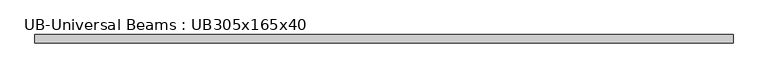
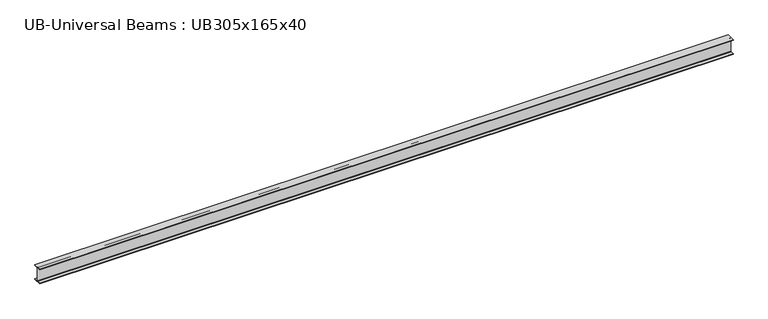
"""IFC4 building model written with IfcOpenShell, lengths in millimetres: beam geometry, UB-Universal Beams : UB305x165x40."""

from ifc_helpers import new_model, si_unit, point, frame, frame_2d, origin, place, context, project, spatial, polyline, circle_curve, trimmed, segment, composite_curve, outline, extrude, source, transform, mapped, element, save


def ub_universal_beams_ub305x165x40_ecdec9dc(model_context):
    return source(origin(), model_context, "Body", "SweptSolid", [
        extrude(outline(composite_curve([segment(polyline([(82.5, -141.5), (82.5, -151.7), (-82.5, -151.7), (-82.5, -141.5), (-11.9, -141.5)]), True, "CONTINUOUS"), segment(trimmed(circle_curve(frame_2d((-11.9, -132.6)), 8.9), [point((-11.9, -141.5))], [point((-3.0, -132.6))], True, "CARTESIAN"), True, "CONTINUOUS"), segment(polyline([(-3.0, -132.6), (-3.0, 132.6)]), True, "CONTINUOUS"), segment(trimmed(circle_curve(frame_2d((-11.9, 132.6)), 8.9), [point((-3.0, 132.6))], [point((-11.9, 141.5))], True, "CARTESIAN"), True, "CONTINUOUS"), segment(polyline([(-11.9, 141.5), (-82.5, 141.5), (-82.5, 151.7), (82.5, 151.7), (82.5, 141.5), (11.9, 141.5)]), True, "CONTINUOUS"), segment(trimmed(circle_curve(frame_2d((11.9, 132.6)), 8.9), [point((11.9, 141.5))], [point((3.0, 132.6))], True, "CARTESIAN"), True, "CONTINUOUS"), segment(polyline([(3.0, 132.6), (3.0, -132.6)]), True, "CONTINUOUS"), segment(trimmed(circle_curve(frame_2d((11.9, -132.6)), 8.9), [point((3.0, -132.6))], [point((11.9, -141.5))], True, "CARTESIAN"), True, "CONTINUOUS"), segment(polyline([(11.9, -141.5), (82.5, -141.5)]), True, "CONTINUOUS")], self_intersect=False)), frame((-7036.2, 0.0, 0.0), z_axis=(1.0, 0.0, 0.0), x_axis=(0.0, 1.0, 0.0)), (0.0, 0.0, 1.0), 13632.1),
    ])


if __name__ == "__main__":
    model = new_model("IFC4")
    model_context = context("Model", 3, world=origin())
    ifc_project = project(units=[si_unit("LENGTHUNIT", "METRE", prefix="MILLI")], contexts=[model_context])
    site = spatial("IfcSite", under=ifc_project)
    building = spatial("IfcBuilding", under=site)
    placement = place(None, origin())
    ub_universal_beams_ub305x165x40_shape = ub_universal_beams_ub305x165x40_ecdec9dc(model_context)
    element("IfcBeam", 1, ObjectType="UB-Universal Beams : UB305x165x40", at=placement, inside=building, context=model_context, shape_type="MappedRepresentation", body=[
        mapped(ub_universal_beams_ub305x165x40_shape, transform((0.0, 0.0, 0.0), x_axis=(1.0, 0.0, 0.0), y_axis=(0.0, 1.0, 0.0), z_axis=(0.0, 0.0, 1.0))),
    ])
    save(model, "model.ifc")
